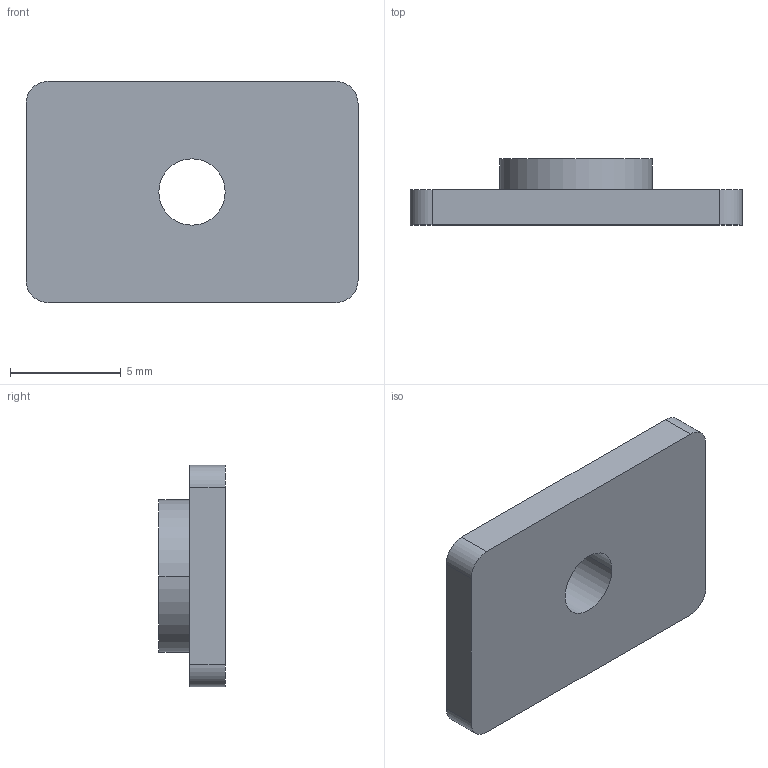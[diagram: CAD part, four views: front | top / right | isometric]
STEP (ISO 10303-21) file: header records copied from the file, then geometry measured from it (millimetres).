
FILE_DESCRIPTION((''),'2;1');
FILE_NAME('25281-01','2014-01-20T',('Barton'),(''),'PRO/ENGINEER BY PARAMETRIC TECHNOLOGY CORPORATION, 2013150','PRO/ENGINEER BY PARAMETRIC TECHNOLOGY CORPORATION, 2013150','');
FILE_SCHEMA(('CONFIG_CONTROL_DESIGN'));
Length unit declared in the file: millimetre
Products named in the file (1): 25281-01
Bounding box: 15 x 3 x 10 mm (x, y, z)
Volume: 269.8 mm3; surface area: 420 mm2
Topology: 1 solids, 1 shells, 15 faces, 36 edges, 24 vertices
Faces by surface type: cylinder 8, plane 7
Entity records: 507 total; most frequent: DIRECTION 82, CARTESIAN_POINT 75, ORIENTED_EDGE 72, EDGE_CURVE 36, AXIS2_PLACEMENT_3D 31, VERTEX_POINT 24, VECTOR 20, LINE 20
